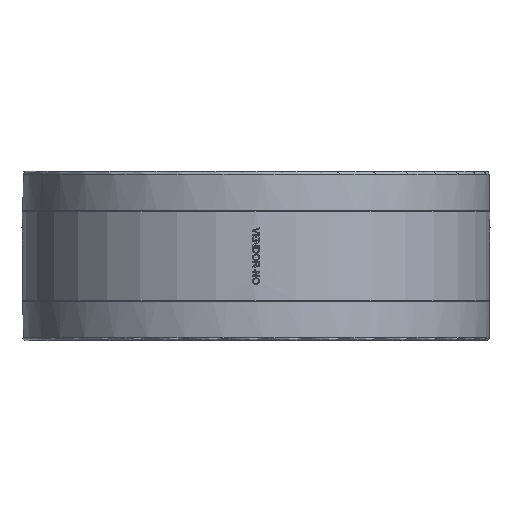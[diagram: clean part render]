
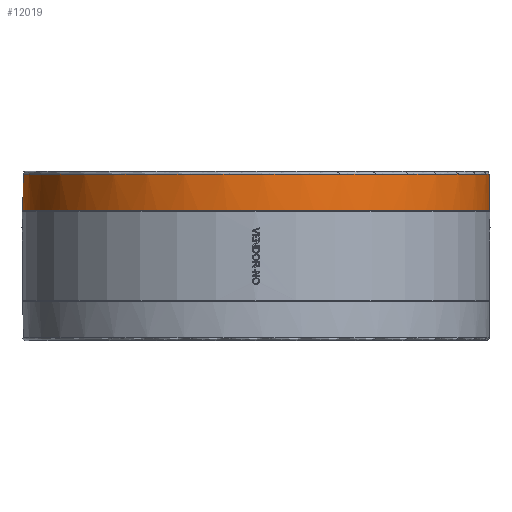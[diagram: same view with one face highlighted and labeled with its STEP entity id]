
A CAD part, front view. The second image highlights one B-rep face of the part: STEP entity #12019.
In plain terms, the highlighted cylindrical face has radius 82.5 mm (diameter 165 mm), a full revolution.
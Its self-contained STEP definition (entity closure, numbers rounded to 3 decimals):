
#7090=ELLIPSE('',#30186,116.673,82.5);
#7091=ELLIPSE('',#30188,116.673,82.5);
#7146=LINE('',#39998,#8795);
#7147=LINE('',#40003,#8796);
#8795=VECTOR('',#32726,1.);
#8796=VECTOR('',#32729,1.);
#12019=ADVANCED_FACE('BCT_REF_200578',(#13935,#13936),#13518,.T.);
#13518=CYLINDRICAL_SURFACE('',#30189,82.5);
#13935=FACE_BOUND('',#14760,.T.);
#13936=FACE_BOUND('',#14761,.T.);
#14760=EDGE_LOOP('',(#16777));
#14761=EDGE_LOOP('',(#16778,#16779,#16780,#16781,#16782,#16783));
#16777=ORIENTED_EDGE('',*,*,#25855,.T.);
#16778=ORIENTED_EDGE('',*,*,#25856,.T.);
#16779=ORIENTED_EDGE('',*,*,#25857,.T.);
#16780=ORIENTED_EDGE('',*,*,#25858,.T.);
#16781=ORIENTED_EDGE('',*,*,#25859,.T.);
#16782=ORIENTED_EDGE('',*,*,#25860,.T.);
#16783=ORIENTED_EDGE('',*,*,#25861,.T.);
#23539=VERTEX_POINT('',#39997);
#23540=VERTEX_POINT('',#39999);
#23541=VERTEX_POINT('',#40000);
#23542=VERTEX_POINT('',#40002);
#23543=VERTEX_POINT('',#40004);
#23544=VERTEX_POINT('',#40006);
#23545=VERTEX_POINT('',#40008);
#25855=EDGE_CURVE('',#23539,#23539,#29170,.T.);
#25856=EDGE_CURVE('',#23540,#23541,#7146,.T.);
#25857=EDGE_CURVE('',#23541,#23542,#29171,.T.);
#25858=EDGE_CURVE('',#23542,#23543,#7147,.T.);
#25859=EDGE_CURVE('',#23543,#23544,#7090,.T.);
#25860=EDGE_CURVE('',#23544,#23545,#29172,.T.);
#25861=EDGE_CURVE('',#23545,#23540,#7091,.T.);
#29170=CIRCLE('',#30184,82.5);
#29171=CIRCLE('',#30185,82.5);
#29172=CIRCLE('',#30187,82.5);
#30184=AXIS2_PLACEMENT_3D('',#39996,#32724,#32725);
#30185=AXIS2_PLACEMENT_3D('',#40001,#32727,#32728);
#30186=AXIS2_PLACEMENT_3D('',#40005,#32730,#32731);
#30187=AXIS2_PLACEMENT_3D('',#40007,#32732,#32733);
#30188=AXIS2_PLACEMENT_3D('',#40009,#32734,#32735);
#30189=AXIS2_PLACEMENT_3D('',#40010,#32736,#32737);
#32724=DIRECTION('',(0.,0.,-1.));
#32725=DIRECTION('',(1.,0.,0.));
#32726=DIRECTION('',(0.,0.,1.));
#32727=DIRECTION('',(0.,0.,1.));
#32728=DIRECTION('',(-1.,0.,0.));
#32729=DIRECTION('',(0.,0.,-1.));
#32730=DIRECTION('',(0.,0.707,0.707));
#32731=DIRECTION('',(0.,0.707,-0.707));
#32732=DIRECTION('',(0.,0.,1.));
#32733=DIRECTION('',(1.,0.,0.));
#32734=DIRECTION('',(0.,0.707,0.707));
#32735=DIRECTION('',(0.,0.707,-0.707));
#32736=DIRECTION('',(0.,0.,-1.));
#32737=DIRECTION('',(-1.,0.,0.));
#39996=CARTESIAN_POINT('',(0.,-203.5,29.));
#39997=CARTESIAN_POINT('',(82.5,-203.5,29.));
#39998=CARTESIAN_POINT('',(20.156,-123.5,30.));
#39999=CARTESIAN_POINT('',(20.156,-123.5,15.85));
#40000=CARTESIAN_POINT('',(20.156,-123.5,16.55));
#40001=CARTESIAN_POINT('',(0.,-203.5,16.55));
#40002=CARTESIAN_POINT('',(-20.156,-123.5,16.55));
#40003=CARTESIAN_POINT('',(-20.156,-123.5,30.));
#40004=CARTESIAN_POINT('',(-20.156,-123.5,15.85));
#40005=CARTESIAN_POINT('',(0.,-203.5,95.85));
#40006=CARTESIAN_POINT('',(-21.123,-123.75,16.1));
#40007=CARTESIAN_POINT('',(0.,-203.5,16.1));
#40008=CARTESIAN_POINT('',(21.123,-123.75,16.1));
#40009=CARTESIAN_POINT('',(0.,-203.5,95.85));
#40010=CARTESIAN_POINT('',(0.,-203.5,30.));
